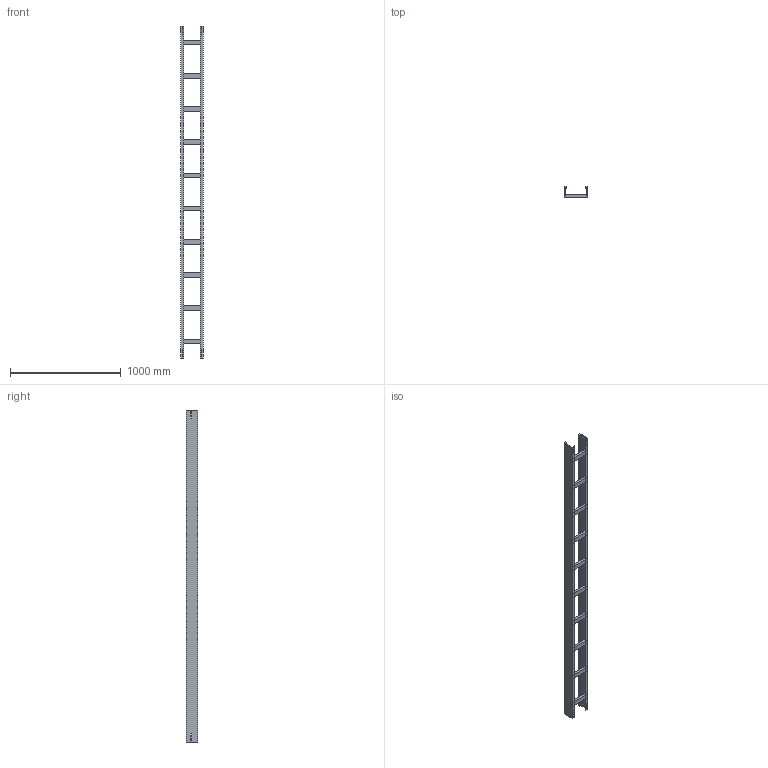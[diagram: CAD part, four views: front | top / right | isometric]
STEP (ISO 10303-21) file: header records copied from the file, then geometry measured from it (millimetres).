
FILE_DESCRIPTION (( 'STEP AP214' ), '1' );
FILE_NAME ('01B3D200.step', '2025-02-21T15:59:35', ( '' ), ( '' ), 'SwSTEP 2.0', 'SolidWorks 2023', '' );
FILE_SCHEMA (( 'AUTOMOTIVE_DESIGN' ));
Length unit declared in the file: millimetre
Products named in the file (3): 01B3D200; LONGH.H100; TRAVERSINO_200
Assembly tree (12 placements, depth 2):
  01B3D200
    LONGH.H100  x2
    TRAVERSINO_200  x10
Bounding box: 200 x 100 x 3000 mm (x, y, z)
Volume: 4234672 mm3; surface area: 1968056 mm2
Topology: 12 solids, 12 shells, 144 faces, 360 edges, 240 vertices
Faces by surface type: plane 144
Entity records: 1696 total; most frequent: CARTESIAN_POINT 283, ORIENTED_EDGE 264, DIRECTION 258, EDGE_CURVE 132, VECTOR 132, LINE 132, VERTEX_POINT 88, EDGE_LOOP 64
